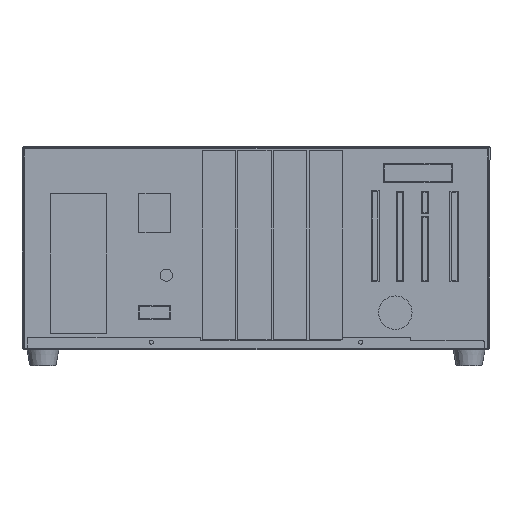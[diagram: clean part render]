
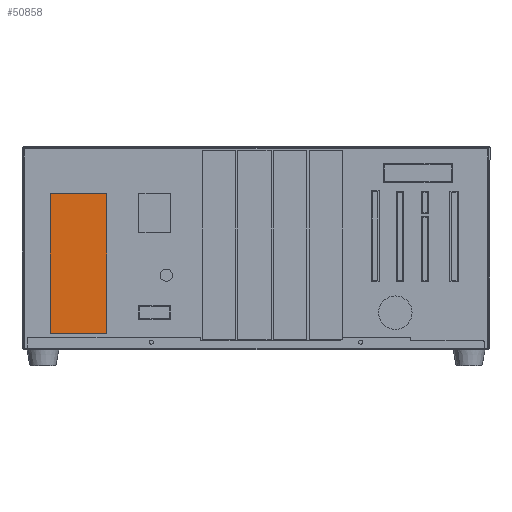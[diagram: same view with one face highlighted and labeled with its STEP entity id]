
A CAD part, front view. The second image highlights one B-rep face of the part: STEP entity #50858.
In plain terms, the highlighted planar face has unit normal (0, -1, 0) as drawn and (0, 0, 1) by its records, which use the part's own axes.
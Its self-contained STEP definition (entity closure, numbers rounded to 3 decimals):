
#1211 = VECTOR ( 'NONE', #35570, 1000. ) ;
#1478 = DIRECTION ( 'NONE',  ( 1., 0., 0. ) ) ;
#4039 = VERTEX_POINT ( 'NONE', #47046 ) ;
#5042 = EDGE_CURVE ( 'NONE', #66831, #24345, #26091, .T. ) ;
#9498 = DIRECTION ( 'NONE',  ( 0., -1., 0. ) ) ;
#9915 = CARTESIAN_POINT ( 'NONE',  ( 121.101, -44.4, 2. ) ) ;
#11775 = ORIENTED_EDGE ( 'NONE', *, *, #33943, .T. ) ;
#14716 = VERTEX_POINT ( 'NONE', #52280 ) ;
#16112 = PLANE ( 'NONE',  #33639 ) ;
#20402 = CARTESIAN_POINT ( 'NONE',  ( 0., -44.4, 2. ) ) ;
#20857 = CARTESIAN_POINT ( 'NONE',  ( 0., 0., 2. ) ) ;
#20988 = LINE ( 'NONE', #41645, #1211 ) ;
#24345 = VERTEX_POINT ( 'NONE', #9915 ) ;
#24719 = CARTESIAN_POINT ( 'NONE',  ( 0., 68.6, 2. ) ) ;
#26091 = LINE ( 'NONE', #46768, #30673 ) ;
#30673 = VECTOR ( 'NONE', #9498, 1000. ) ;
#30799 = EDGE_CURVE ( 'NONE', #4039, #14716, #20988, .T. ) ;
#30886 = DIRECTION ( 'NONE',  ( 1., 0., 0. ) ) ;
#32681 = DIRECTION ( 'NONE',  ( 0., 0., 1. ) ) ;
#33639 = AXIS2_PLACEMENT_3D ( 'NONE', #20857, #32681, #1478 ) ;
#33846 = VECTOR ( 'NONE', #30886, 1000. ) ;
#33943 = EDGE_CURVE ( 'NONE', #24345, #14716, #36326, .T. ) ;
#35570 = DIRECTION ( 'NONE',  ( 0., -1., 0. ) ) ;
#36326 = LINE ( 'NONE', #20402, #33846 ) ;
#37952 = VECTOR ( 'NONE', #50821, 1000. ) ;
#39929 = EDGE_CURVE ( 'NONE', #66831, #4039, #55578, .T. ) ;
#41303 = CARTESIAN_POINT ( 'NONE',  ( 121.101, 68.6, 2. ) ) ;
#41369 = ORIENTED_EDGE ( 'NONE', *, *, #5042, .T. ) ;
#41645 = CARTESIAN_POINT ( 'NONE',  ( 167.101, 0., 2. ) ) ;
#45238 = ORIENTED_EDGE ( 'NONE', *, *, #30799, .F. ) ;
#46287 = ORIENTED_EDGE ( 'NONE', *, *, #39929, .F. ) ;
#46768 = CARTESIAN_POINT ( 'NONE',  ( 121.101, 0., 2. ) ) ;
#47046 = CARTESIAN_POINT ( 'NONE',  ( 167.101, 68.6, 2. ) ) ;
#47961 = FACE_OUTER_BOUND ( 'NONE', #57394, .T. ) ;
#50821 = DIRECTION ( 'NONE',  ( 1., 0., 0. ) ) ;
#50858 = ADVANCED_FACE ( 'NONE', ( #47961 ), #16112, .T. ) ;
#52280 = CARTESIAN_POINT ( 'NONE',  ( 167.101, -44.4, 2. ) ) ;
#55578 = LINE ( 'NONE', #24719, #37952 ) ;
#57394 = EDGE_LOOP ( 'NONE', ( #45238, #46287, #41369, #11775 ) ) ;
#66831 = VERTEX_POINT ( 'NONE', #41303 ) ;
